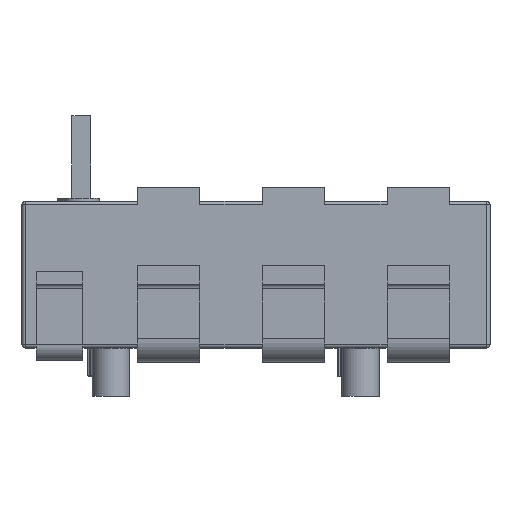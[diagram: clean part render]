
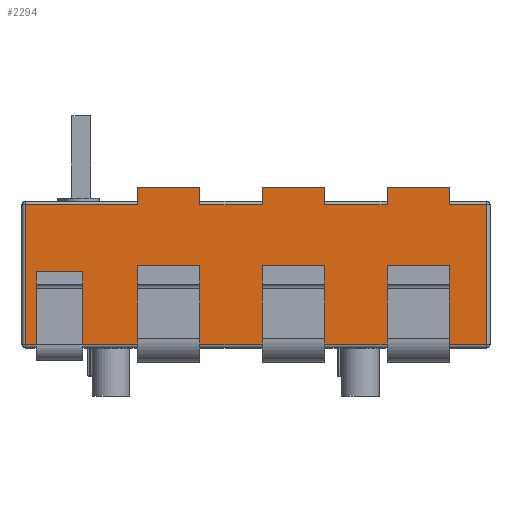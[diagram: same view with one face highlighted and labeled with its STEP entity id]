
A CAD part, front view. The second image highlights one B-rep face of the part: STEP entity #2294.
In plain terms, the highlighted planar face has unit normal (0, -1, 0).
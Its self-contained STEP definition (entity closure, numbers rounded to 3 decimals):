
#602=FACE_OUTER_BOUND('',#3196,.T.);
#770=PLANE('',#8333);
#852=LINE('',#10720,#1400);
#853=LINE('',#10725,#1401);
#860=LINE('',#10744,#1408);
#884=LINE('',#10819,#1432);
#886=LINE('',#10826,#1434);
#889=LINE('',#10833,#1437);
#912=LINE('',#10912,#1460);
#914=LINE('',#10919,#1462);
#919=LINE('',#10928,#1467);
#949=LINE('',#11019,#1497);
#952=LINE('',#11025,#1500);
#955=LINE('',#11035,#1503);
#983=LINE('',#11126,#1531);
#988=LINE('',#11138,#1536);
#989=LINE('',#11142,#1537);
#1014=LINE('',#11224,#1562);
#1019=LINE('',#11235,#1567);
#1021=LINE('',#11241,#1569);
#1268=LINE('',#15638,#1816);
#1274=LINE('',#15677,#1822);
#1275=LINE('',#15679,#1823);
#1298=LINE('',#15740,#1846);
#1300=LINE('',#15743,#1848);
#1306=LINE('',#15752,#1854);
#1307=LINE('',#15753,#1855);
#1308=LINE('',#15754,#1856);
#1309=LINE('',#15755,#1857);
#1310=LINE('',#15756,#1858);
#1400=VECTOR('',#8575,1.);
#1401=VECTOR('',#8580,1.);
#1408=VECTOR('',#8595,1.);
#1432=VECTOR('',#8669,1.);
#1434=VECTOR('',#8675,1.);
#1437=VECTOR('',#8682,1.);
#1460=VECTOR('',#8755,1.);
#1462=VECTOR('',#8761,1.);
#1467=VECTOR('',#8770,1.);
#1497=VECTOR('',#8860,1.);
#1500=VECTOR('',#8865,1.);
#1503=VECTOR('',#8874,1.);
#1531=VECTOR('',#8960,1.);
#1536=VECTOR('',#8969,1.);
#1537=VECTOR('',#8974,1.);
#1562=VECTOR('',#9053,1.);
#1567=VECTOR('',#9062,1.);
#1569=VECTOR('',#9068,1.);
#1816=VECTOR('',#10267,1.);
#1822=VECTOR('',#10315,1.);
#1823=VECTOR('',#10318,1.);
#1846=VECTOR('',#10417,1.);
#1848=VECTOR('',#10421,1.);
#1854=VECTOR('',#10433,1.);
#1855=VECTOR('',#10434,1.);
#1856=VECTOR('',#10435,1.);
#1857=VECTOR('',#10436,1.);
#1858=VECTOR('',#10437,1.);
#2294=ADVANCED_FACE('',(#602),#770,.F.);
#3196=EDGE_LOOP('',(#5232,#5233,#5234,#5235,#5236,#5237,#5238,#5239,#5240,
#5241,#5242,#5243,#5244,#5245,#5246,#5247,#5248,#5249,#5250,#5251,#5252,
#5253,#5254,#5255,#5256,#5257,#5258,#5259));
#5232=ORIENTED_EDGE('',*,*,#7128,.T.);
#5233=ORIENTED_EDGE('',*,*,#6194,.T.);
#5234=ORIENTED_EDGE('',*,*,#6182,.F.);
#5235=ORIENTED_EDGE('',*,*,#6184,.F.);
#5236=ORIENTED_EDGE('',*,*,#7129,.T.);
#5237=ORIENTED_EDGE('',*,*,#6237,.T.);
#5238=ORIENTED_EDGE('',*,*,#6230,.T.);
#5239=ORIENTED_EDGE('',*,*,#6233,.F.);
#5240=ORIENTED_EDGE('',*,*,#7130,.T.);
#5241=ORIENTED_EDGE('',*,*,#6283,.T.);
#5242=ORIENTED_EDGE('',*,*,#6274,.T.);
#5243=ORIENTED_EDGE('',*,*,#6277,.F.);
#5244=ORIENTED_EDGE('',*,*,#7077,.T.);
#5245=ORIENTED_EDGE('',*,*,#7096,.T.);
#5246=ORIENTED_EDGE('',*,*,#7122,.T.);
#5247=ORIENTED_EDGE('',*,*,#6432,.F.);
#5248=ORIENTED_EDGE('',*,*,#6435,.F.);
#5249=ORIENTED_EDGE('',*,*,#6426,.F.);
#5250=ORIENTED_EDGE('',*,*,#7131,.T.);
#5251=ORIENTED_EDGE('',*,*,#6385,.T.);
#5252=ORIENTED_EDGE('',*,*,#6387,.T.);
#5253=ORIENTED_EDGE('',*,*,#6379,.T.);
#5254=ORIENTED_EDGE('',*,*,#7132,.T.);
#5255=ORIENTED_EDGE('',*,*,#6335,.T.);
#5256=ORIENTED_EDGE('',*,*,#6327,.T.);
#5257=ORIENTED_EDGE('',*,*,#6330,.T.);
#5258=ORIENTED_EDGE('',*,*,#7120,.T.);
#5259=ORIENTED_EDGE('',*,*,#7097,.T.);
#5444=VERTEX_POINT('',#10717);
#5445=VERTEX_POINT('',#10719);
#5446=VERTEX_POINT('',#10723);
#5452=VERTEX_POINT('',#10736);
#5480=VERTEX_POINT('',#10816);
#5481=VERTEX_POINT('',#10818);
#5484=VERTEX_POINT('',#10825);
#5487=VERTEX_POINT('',#10834);
#5516=VERTEX_POINT('',#10909);
#5517=VERTEX_POINT('',#10911);
#5520=VERTEX_POINT('',#10918);
#5523=VERTEX_POINT('',#10929);
#5554=VERTEX_POINT('',#11020);
#5555=VERTEX_POINT('',#11021);
#5556=VERTEX_POINT('',#11026);
#5560=VERTEX_POINT('',#11036);
#5593=VERTEX_POINT('',#11125);
#5594=VERTEX_POINT('',#11127);
#5598=VERTEX_POINT('',#11137);
#5599=VERTEX_POINT('',#11139);
#5629=VERTEX_POINT('',#11223);
#5630=VERTEX_POINT('',#11225);
#5633=VERTEX_POINT('',#11234);
#5634=VERTEX_POINT('',#11236);
#6058=VERTEX_POINT('',#15626);
#6061=VERTEX_POINT('',#15637);
#6063=VERTEX_POINT('',#15644);
#6070=VERTEX_POINT('',#15663);
#6182=EDGE_CURVE('',#5445,#5444,#852,.T.);
#6184=EDGE_CURVE('',#5446,#5445,#853,.T.);
#6194=EDGE_CURVE('',#5452,#5444,#860,.T.);
#6230=EDGE_CURVE('',#5480,#5481,#884,.T.);
#6233=EDGE_CURVE('',#5484,#5481,#886,.T.);
#6237=EDGE_CURVE('',#5487,#5480,#889,.T.);
#6274=EDGE_CURVE('',#5516,#5517,#912,.T.);
#6277=EDGE_CURVE('',#5520,#5517,#914,.T.);
#6283=EDGE_CURVE('',#5523,#5516,#919,.T.);
#6327=EDGE_CURVE('',#5554,#5555,#949,.T.);
#6330=EDGE_CURVE('',#5555,#5556,#952,.T.);
#6335=EDGE_CURVE('',#5560,#5554,#955,.T.);
#6379=EDGE_CURVE('',#5594,#5593,#983,.T.);
#6385=EDGE_CURVE('',#5599,#5598,#988,.T.);
#6387=EDGE_CURVE('',#5598,#5594,#989,.T.);
#6426=EDGE_CURVE('',#5629,#5630,#1014,.T.);
#6432=EDGE_CURVE('',#5633,#5634,#1019,.T.);
#6435=EDGE_CURVE('',#5630,#5633,#1021,.T.);
#7077=EDGE_CURVE('',#5520,#6061,#1268,.T.);
#7096=EDGE_CURVE('',#6061,#6063,#1274,.T.);
#7097=EDGE_CURVE('',#6070,#6058,#1275,.T.);
#7120=EDGE_CURVE('',#5556,#6070,#1298,.T.);
#7122=EDGE_CURVE('',#6063,#5634,#1300,.T.);
#7128=EDGE_CURVE('',#6058,#5452,#1306,.T.);
#7129=EDGE_CURVE('',#5446,#5487,#1307,.T.);
#7130=EDGE_CURVE('',#5484,#5523,#1308,.T.);
#7131=EDGE_CURVE('',#5629,#5599,#1309,.T.);
#7132=EDGE_CURVE('',#5593,#5560,#1310,.T.);
#8333=AXIS2_PLACEMENT_3D('',#15757,#10438,#10439);
#8575=DIRECTION('',(1.,0.,0.));
#8580=DIRECTION('',(0.,0.,1.));
#8595=DIRECTION('',(0.,0.,1.));
#8669=DIRECTION('',(-1.,0.,0.));
#8675=DIRECTION('',(0.,0.,1.));
#8682=DIRECTION('',(0.,0.,1.));
#8755=DIRECTION('',(-1.,0.,0.));
#8761=DIRECTION('',(0.,0.,1.));
#8770=DIRECTION('',(0.,0.,1.));
#8860=DIRECTION('',(1.,0.,0.));
#8865=DIRECTION('',(0.,0.,-1.));
#8874=DIRECTION('',(0.,0.,1.));
#8960=DIRECTION('',(0.,0.,-1.));
#8969=DIRECTION('',(0.,0.,1.));
#8974=DIRECTION('',(1.,0.,0.));
#9053=DIRECTION('',(0.,0.,1.));
#9062=DIRECTION('',(0.,0.,-1.));
#9068=DIRECTION('',(-1.,0.,0.));
#10267=DIRECTION('',(-1.,0.,0.));
#10315=DIRECTION('',(0.,0.,-1.));
#10318=DIRECTION('',(0.,0.,1.));
#10417=DIRECTION('',(1.,0.,0.));
#10421=DIRECTION('',(1.,0.,0.));
#10433=DIRECTION('',(-1.,0.,0.));
#10434=DIRECTION('',(-1.,0.,0.));
#10435=DIRECTION('',(-1.,0.,0.));
#10436=DIRECTION('',(1.,0.,0.));
#10437=DIRECTION('',(1.,0.,0.));
#10438=DIRECTION('',(0.,1.,0.));
#10439=DIRECTION('',(0.,0.,1.));
#10717=CARTESIAN_POINT('',(124.,-75.,103.));
#10719=CARTESIAN_POINT('',(84.,-75.,103.));
#10720=CARTESIAN_POINT('',(124.,-75.,103.));
#10723=CARTESIAN_POINT('',(84.,-75.,92.));
#10725=CARTESIAN_POINT('',(84.,-75.,103.));
#10736=CARTESIAN_POINT('',(124.,-75.,92.));
#10744=CARTESIAN_POINT('',(124.,-75.,103.));
#10816=CARTESIAN_POINT('',(44.,-75.,103.));
#10818=CARTESIAN_POINT('',(4.,-75.,103.));
#10819=CARTESIAN_POINT('',(4.,-75.,103.));
#10825=CARTESIAN_POINT('',(4.,-75.,92.));
#10826=CARTESIAN_POINT('',(4.,-75.,103.));
#10833=CARTESIAN_POINT('',(44.,-75.,103.));
#10834=CARTESIAN_POINT('',(44.,-75.,92.));
#10909=CARTESIAN_POINT('',(-36.,-75.,103.));
#10911=CARTESIAN_POINT('',(-76.,-75.,103.));
#10912=CARTESIAN_POINT('',(-76.,-75.,103.));
#10918=CARTESIAN_POINT('',(-76.,-75.,92.));
#10919=CARTESIAN_POINT('',(-76.,-75.,103.));
#10928=CARTESIAN_POINT('',(-36.,-75.,103.));
#10929=CARTESIAN_POINT('',(-36.,-75.,92.));
#11019=CARTESIAN_POINT('',(-150.,-75.,3.));
#11020=CARTESIAN_POINT('',(84.,-75.,3.));
#11021=CARTESIAN_POINT('',(124.,-75.,3.));
#11025=CARTESIAN_POINT('',(124.,-75.,94.));
#11026=CARTESIAN_POINT('',(124.,-75.,2.));
#11035=CARTESIAN_POINT('',(84.,-75.,94.));
#11036=CARTESIAN_POINT('',(84.,-75.,2.));
#11125=CARTESIAN_POINT('',(44.,-75.,2.));
#11126=CARTESIAN_POINT('',(44.,-75.,94.));
#11127=CARTESIAN_POINT('',(44.,-75.,3.));
#11137=CARTESIAN_POINT('',(4.,-75.,3.));
#11138=CARTESIAN_POINT('',(4.,-75.,94.));
#11139=CARTESIAN_POINT('',(4.,-75.,2.));
#11142=CARTESIAN_POINT('',(-150.,-75.,3.));
#11223=CARTESIAN_POINT('',(-36.,-75.,2.));
#11224=CARTESIAN_POINT('',(-36.,-75.,94.));
#11225=CARTESIAN_POINT('',(-36.,-75.,3.));
#11234=CARTESIAN_POINT('',(-76.,-75.,3.));
#11235=CARTESIAN_POINT('',(-76.,-75.,94.));
#11236=CARTESIAN_POINT('',(-76.,-75.,2.));
#11241=CARTESIAN_POINT('',(-150.,-75.,3.));
#15626=CARTESIAN_POINT('',(148.,-75.,92.));
#15637=CARTESIAN_POINT('',(-148.,-75.,92.));
#15638=CARTESIAN_POINT('',(-148.,-75.,92.));
#15644=CARTESIAN_POINT('',(-148.,-75.,2.));
#15663=CARTESIAN_POINT('',(148.,-75.,2.));
#15677=CARTESIAN_POINT('',(-148.,-75.,94.));
#15679=CARTESIAN_POINT('',(148.,-75.,94.));
#15740=CARTESIAN_POINT('',(-150.,-75.,2.));
#15743=CARTESIAN_POINT('',(-150.,-75.,2.));
#15752=CARTESIAN_POINT('',(-148.,-75.,92.));
#15753=CARTESIAN_POINT('',(-148.,-75.,92.));
#15754=CARTESIAN_POINT('',(-148.,-75.,92.));
#15755=CARTESIAN_POINT('',(-150.,-75.,2.));
#15756=CARTESIAN_POINT('',(-150.,-75.,2.));
#15757=CARTESIAN_POINT('',(-150.,-75.,94.));
